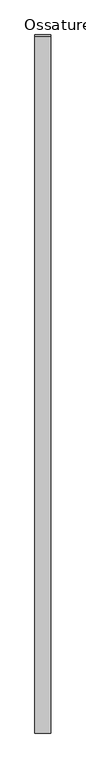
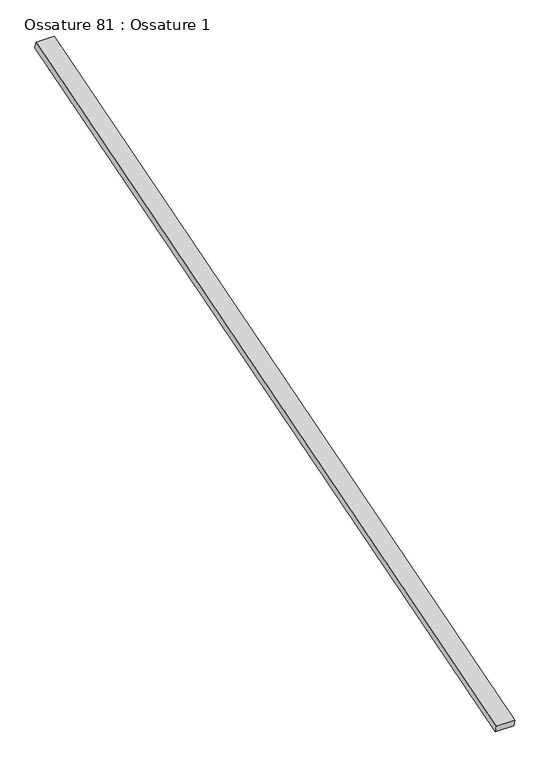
"""IFC4 building model written with IfcOpenShell, lengths in millimetres: beam geometry, Ossature 81 : Ossature 1."""

from ifc_helpers import new_model, si_unit, frame, origin, place, context, project, spatial, polyline, outline, extrude, source, transform, mapped, element, save


def ossature_81_ossature_1_ef41feda(model_context):
    return source(origin(), model_context, "Body", "SweptSolid", [
        extrude(outline(polyline([(0.0, 0.0), (0.0, -4543.0299679), (-100.0, -4543.0299679), (-100.0, 0.0), (0.0, 0.0)])), frame((19577.4466393, -833.3913565, 8153.6336115), z_axis=(0.0, -0.28734788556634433, 0.9578262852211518), x_axis=(-1.0, 0.0, 0.0)), (0.0, 0.0, 1.0), 40.0),
    ])


if __name__ == "__main__":
    model = new_model("IFC4")
    model_context = context("Model", 3, world=origin())
    ifc_project = project(units=[si_unit("LENGTHUNIT", "METRE", prefix="MILLI")], contexts=[model_context])
    site = spatial("IfcSite", under=ifc_project)
    building = spatial("IfcBuilding", under=site)
    placement = place(None, origin())
    ossature_81_ossature_1_shape = ossature_81_ossature_1_ef41feda(model_context)
    element("IfcBeam", 1, ObjectType="Ossature 81 : Ossature 1", at=placement, inside=building, context=model_context, shape_type="MappedRepresentation", body=[
        mapped(ossature_81_ossature_1_shape, transform((0.0, 0.0, 0.0), x_axis=(1.0, 0.0, 0.0), y_axis=(0.0, 1.0, 0.0), z_axis=(0.0, 0.0, 1.0))),
    ])
    save(model, "model.ifc")
